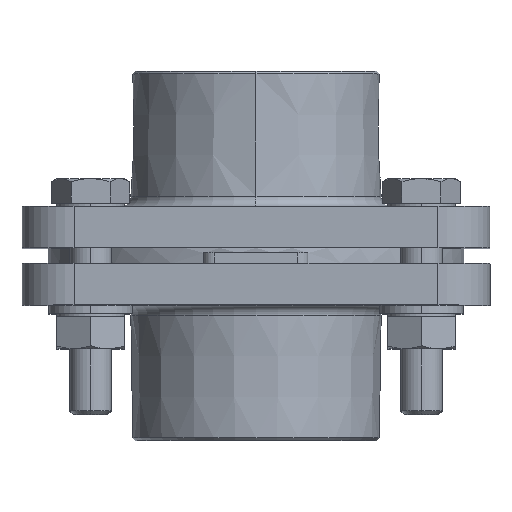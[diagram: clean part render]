
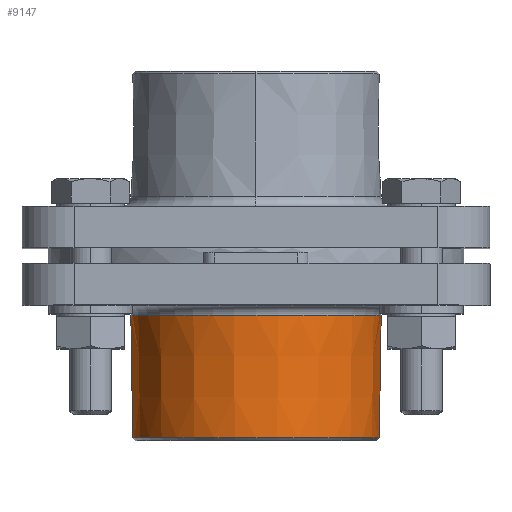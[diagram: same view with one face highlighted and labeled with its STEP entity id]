
A CAD part, top view. The second image highlights one B-rep face of the part: STEP entity #9147.
In plain terms, the highlighted conical face has half-angle 0.881 degrees and reference radius 24.07 mm.
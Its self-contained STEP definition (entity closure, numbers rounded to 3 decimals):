
#414 = AXIS2_PLACEMENT_3D ( 'NONE', #2807, #8008, #3556 ) ;
#924 = EDGE_CURVE ( 'NONE', #8356, #3661, #5355, .T. ) ;
#1281 = VERTEX_POINT ( 'NONE', #4439 ) ;
#1497 = CIRCLE ( 'NONE', #414, 24.07 ) ;
#1832 = CARTESIAN_POINT ( 'NONE',  ( 9.95, -24.102, 3.465 ) ) ;
#1868 = EDGE_LOOP ( 'NONE', ( #7987, #4057, #9091, #3417 ) ) ;
#2189 = CARTESIAN_POINT ( 'NONE',  ( 9.588, -47.625, 3.465 ) ) ;
#2409 = CARTESIAN_POINT ( 'NONE',  ( -14.119, -47.625, 3.465 ) ) ;
#2501 = DIRECTION ( 'NONE',  ( 1., 0., 0. ) ) ;
#2751 = VECTOR ( 'NONE', #5518, 1000. ) ;
#2807 = CARTESIAN_POINT ( 'NONE',  ( -14.119, -24.102, 3.465 ) ) ;
#3150 = DIRECTION ( 'NONE',  ( -1., 0., 0. ) ) ;
#3209 = CARTESIAN_POINT ( 'NONE',  ( -14.119, -24.102, 3.465 ) ) ;
#3417 = ORIENTED_EDGE ( 'NONE', *, *, #7097, .F. ) ;
#3556 = DIRECTION ( 'NONE',  ( 1., 0., 0. ) ) ;
#3661 = VERTEX_POINT ( 'NONE', #6399 ) ;
#3872 = AXIS2_PLACEMENT_3D ( 'NONE', #3209, #6162, #2501 ) ;
#3955 = DIRECTION ( 'NONE',  ( 0.015, 1., 0. ) ) ;
#3959 = AXIS2_PLACEMENT_3D ( 'NONE', #2409, #7621, #3150 ) ;
#4057 = ORIENTED_EDGE ( 'NONE', *, *, #4634, .T. ) ;
#4404 = VERTEX_POINT ( 'NONE', #9495 ) ;
#4439 = CARTESIAN_POINT ( 'NONE',  ( -38.189, -24.102, 3.465 ) ) ;
#4634 = EDGE_CURVE ( 'NONE', #4404, #8356, #9710, .T. ) ;
#4738 = CARTESIAN_POINT ( 'NONE',  ( -38.189, -24.102, 3.465 ) ) ;
#5355 = LINE ( 'NONE', #1832, #9353 ) ;
#5518 = DIRECTION ( 'NONE',  ( -0.015, 1., 0. ) ) ;
#6146 = CONICAL_SURFACE ( 'NONE', #3872, 24.07, 0.015 ) ;
#6162 = DIRECTION ( 'NONE',  ( 0., 1., 0. ) ) ;
#6399 = CARTESIAN_POINT ( 'NONE',  ( 9.95, -24.102, 3.465 ) ) ;
#6910 = EDGE_CURVE ( 'NONE', #4404, #1281, #8695, .T. ) ;
#7080 = FACE_OUTER_BOUND ( 'NONE', #1868, .T. ) ;
#7097 = EDGE_CURVE ( 'NONE', #1281, #3661, #1497, .T. ) ;
#7621 = DIRECTION ( 'NONE',  ( 0., 1., 0. ) ) ;
#7987 = ORIENTED_EDGE ( 'NONE', *, *, #6910, .F. ) ;
#8008 = DIRECTION ( 'NONE',  ( 0., 1., 0. ) ) ;
#8356 = VERTEX_POINT ( 'NONE', #2189 ) ;
#8695 = LINE ( 'NONE', #4738, #2751 ) ;
#9091 = ORIENTED_EDGE ( 'NONE', *, *, #924, .T. ) ;
#9147 = ADVANCED_FACE ( 'NONE', ( #7080 ), #6146, .T. ) ;
#9353 = VECTOR ( 'NONE', #3955, 1000. ) ;
#9495 = CARTESIAN_POINT ( 'NONE',  ( -37.827, -47.625, 3.465 ) ) ;
#9710 = CIRCLE ( 'NONE', #3959, 23.708 ) ;
